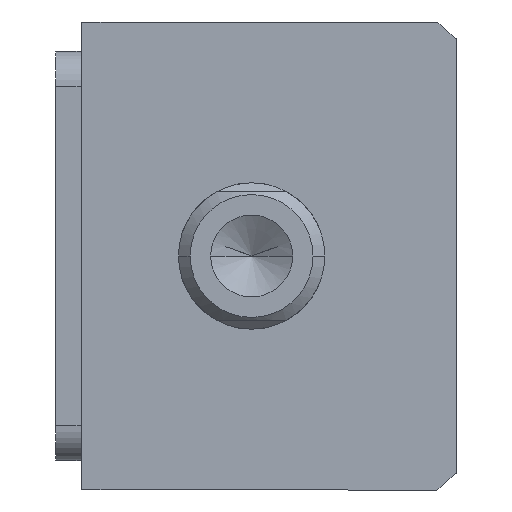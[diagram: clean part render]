
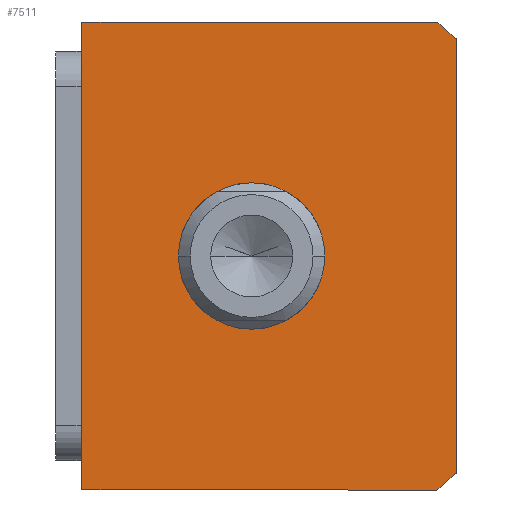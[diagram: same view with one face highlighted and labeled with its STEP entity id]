
A CAD part, front view. The second image highlights one B-rep face of the part: STEP entity #7511.
In plain terms, the highlighted planar face has unit normal (0, -1, 0) as drawn and (0, 0, -1) by its records, which use the part's own axes.
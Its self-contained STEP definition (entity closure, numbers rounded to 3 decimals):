
#71 = ORIENTED_EDGE ( 'NONE', *, *, #6394, .F. ) ;
#94 = DIRECTION ( 'NONE',  ( 0., 0., 1. ) ) ;
#664 = DIRECTION ( 'NONE',  ( -1., 0., 0. ) ) ;
#1152 = DIRECTION ( 'NONE',  ( 0., -1., 0. ) ) ;
#1166 = VERTEX_POINT ( 'NONE', #1934 ) ;
#1266 = DIRECTION ( 'NONE',  ( 0., 0., 1. ) ) ;
#1419 = LINE ( 'NONE', #2848, #5868 ) ;
#1481 = CARTESIAN_POINT ( 'NONE',  ( 40., 32., 0. ) ) ;
#1683 = CARTESIAN_POINT ( 'NONE',  ( 0., 3., 0. ) ) ;
#1906 = VECTOR ( 'NONE', #664, 1000. ) ;
#1934 = CARTESIAN_POINT ( 'NONE',  ( -40., -28.639, 0. ) ) ;
#2002 = CIRCLE ( 'NONE', #8573, 51. ) ;
#2016 = ORIENTED_EDGE ( 'NONE', *, *, #10426, .F. ) ;
#2383 = AXIS2_PLACEMENT_3D ( 'NONE', #5093, #94, #5945 ) ;
#2524 = DIRECTION ( 'NONE',  ( 1., 0., 0. ) ) ;
#2589 = CARTESIAN_POINT ( 'NONE',  ( 0., 3., 0. ) ) ;
#2723 = EDGE_LOOP ( 'NONE', ( #8149, #2016, #71, #4777, #9404, #8019 ) ) ;
#2774 = CARTESIAN_POINT ( 'NONE',  ( -40., 32., 0. ) ) ;
#2848 = CARTESIAN_POINT ( 'NONE',  ( -40., -32., 0. ) ) ;
#2927 = CARTESIAN_POINT ( 'NONE',  ( 40., 32., 0. ) ) ;
#3012 = VERTEX_POINT ( 'NONE', #5134 ) ;
#3073 = EDGE_LOOP ( 'NONE', ( #3510, #7873 ) ) ;
#3425 = DIRECTION ( 'NONE',  ( 1., 0., 0. ) ) ;
#3510 = ORIENTED_EDGE ( 'NONE', *, *, #6599, .T. ) ;
#3679 = DIRECTION ( 'NONE',  ( 1., 0., 0. ) ) ;
#3795 = EDGE_CURVE ( 'NONE', #1166, #8023, #2002, .T. ) ;
#3890 = LINE ( 'NONE', #2774, #9962 ) ;
#4116 = CARTESIAN_POINT ( 'NONE',  ( -37.094, -32., 0. ) ) ;
#4171 = CIRCLE ( 'NONE', #4984, 12.5 ) ;
#4418 = CARTESIAN_POINT ( 'NONE',  ( 0., 3., 0. ) ) ;
#4528 = EDGE_CURVE ( 'NONE', #8388, #5757, #10146, .T. ) ;
#4777 = ORIENTED_EDGE ( 'NONE', *, *, #4528, .F. ) ;
#4984 = AXIS2_PLACEMENT_3D ( 'NONE', #4418, #10172, #5252 ) ;
#5064 = CARTESIAN_POINT ( 'NONE',  ( 40., -28.639, 0. ) ) ;
#5093 = CARTESIAN_POINT ( 'NONE',  ( 0., 3., 0. ) ) ;
#5134 = CARTESIAN_POINT ( 'NONE',  ( 37.094, -32., 0. ) ) ;
#5188 = DIRECTION ( 'NONE',  ( 0., 1., 0. ) ) ;
#5252 = DIRECTION ( 'NONE',  ( 1., 0., 0. ) ) ;
#5276 = CARTESIAN_POINT ( 'NONE',  ( 12.5, 3., 0. ) ) ;
#5757 = VERTEX_POINT ( 'NONE', #1481 ) ;
#5849 = VERTEX_POINT ( 'NONE', #9553 ) ;
#5866 = CARTESIAN_POINT ( 'NONE',  ( -12.5, 3., 0. ) ) ;
#5868 = VECTOR ( 'NONE', #3679, 1000. ) ;
#5945 = DIRECTION ( 'NONE',  ( 1., 0., 0. ) ) ;
#6394 = EDGE_CURVE ( 'NONE', #5757, #5849, #10449, .T. ) ;
#6488 = CARTESIAN_POINT ( 'NONE',  ( -40., 32., 0. ) ) ;
#6599 = EDGE_CURVE ( 'NONE', #9595, #7201, #9415, .T. ) ;
#7084 = DIRECTION ( 'NONE',  ( 1., 0., 0. ) ) ;
#7201 = VERTEX_POINT ( 'NONE', #5866 ) ;
#7485 = DIRECTION ( 'NONE',  ( 0., 0., 1. ) ) ;
#7511 = ADVANCED_FACE ( 'NONE', ( #9680, #7516 ), #9519, .F. ) ;
#7516 = FACE_OUTER_BOUND ( 'NONE', #2723, .T. ) ;
#7749 = CIRCLE ( 'NONE', #8538, 51. ) ;
#7857 = AXIS2_PLACEMENT_3D ( 'NONE', #10348, #1266, #7084 ) ;
#7873 = ORIENTED_EDGE ( 'NONE', *, *, #10291, .T. ) ;
#7990 = VECTOR ( 'NONE', #5188, 1000. ) ;
#8019 = ORIENTED_EDGE ( 'NONE', *, *, #10442, .F. ) ;
#8023 = VERTEX_POINT ( 'NONE', #4116 ) ;
#8149 = ORIENTED_EDGE ( 'NONE', *, *, #3795, .F. ) ;
#8385 = EDGE_CURVE ( 'NONE', #3012, #8388, #7749, .T. ) ;
#8387 = DIRECTION ( 'NONE',  ( 0., 0., 1. ) ) ;
#8388 = VERTEX_POINT ( 'NONE', #5064 ) ;
#8538 = AXIS2_PLACEMENT_3D ( 'NONE', #2589, #8387, #3425 ) ;
#8573 = AXIS2_PLACEMENT_3D ( 'NONE', #1683, #7485, #2524 ) ;
#9404 = ORIENTED_EDGE ( 'NONE', *, *, #8385, .F. ) ;
#9415 = CIRCLE ( 'NONE', #2383, 12.5 ) ;
#9519 = PLANE ( 'NONE',  #7857 ) ;
#9553 = CARTESIAN_POINT ( 'NONE',  ( -40., 32., 0. ) ) ;
#9595 = VERTEX_POINT ( 'NONE', #5276 ) ;
#9680 = FACE_BOUND ( 'NONE', #3073, .T. ) ;
#9962 = VECTOR ( 'NONE', #1152, 1000. ) ;
#10146 = LINE ( 'NONE', #2927, #7990 ) ;
#10172 = DIRECTION ( 'NONE',  ( 0., 0., 1. ) ) ;
#10291 = EDGE_CURVE ( 'NONE', #7201, #9595, #4171, .T. ) ;
#10348 = CARTESIAN_POINT ( 'NONE',  ( 0., 0., 0. ) ) ;
#10426 = EDGE_CURVE ( 'NONE', #5849, #1166, #3890, .T. ) ;
#10442 = EDGE_CURVE ( 'NONE', #8023, #3012, #1419, .T. ) ;
#10449 = LINE ( 'NONE', #6488, #1906 ) ;
